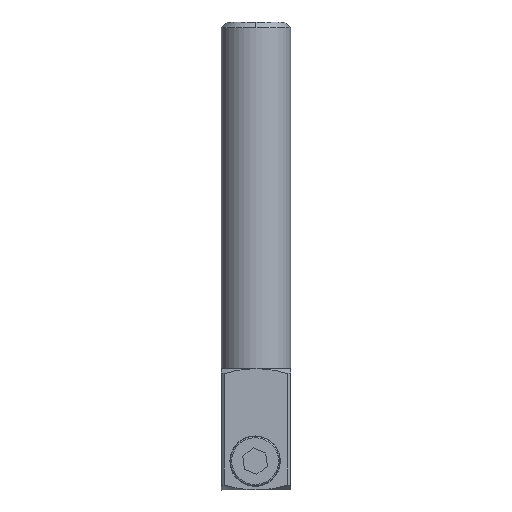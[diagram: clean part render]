
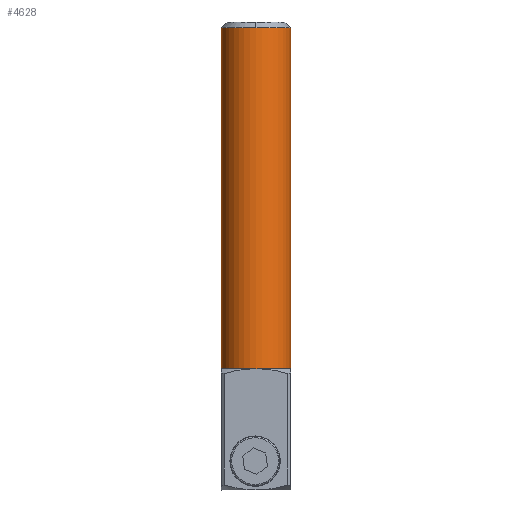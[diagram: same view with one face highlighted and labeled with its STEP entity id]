
A CAD part, left-side view. The second image highlights one B-rep face of the part: STEP entity #4628.
In plain terms, the highlighted cylindrical face has radius 6 mm (diameter 12 mm), a partial arc.
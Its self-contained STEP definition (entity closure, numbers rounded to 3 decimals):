
#722 = VERTEX_POINT ( 'NONE', #8622 ) ;
#736 = EDGE_LOOP ( 'NONE', ( #9617, #2493, #2335, #2048, #3266 ) ) ;
#1015 = CIRCLE ( 'NONE', #2639, 6. ) ;
#1640 = CARTESIAN_POINT ( 'NONE',  ( 2.514, 32.342, 33.168 ) ) ;
#1738 = EDGE_CURVE ( 'NONE', #722, #11349, #2868, .T. ) ;
#1903 = DIRECTION ( 'NONE',  ( 0., 1., 0. ) ) ;
#2048 = ORIENTED_EDGE ( 'NONE', *, *, #1738, .T. ) ;
#2335 = ORIENTED_EDGE ( 'NONE', *, *, #10790, .F. ) ;
#2462 = DIRECTION ( 'NONE',  ( -1., 0., 0. ) ) ;
#2493 = ORIENTED_EDGE ( 'NONE', *, *, #5535, .F. ) ;
#2639 = AXIS2_PLACEMENT_3D ( 'NONE', #1640, #3566, #7346 ) ;
#2779 = VECTOR ( 'NONE', #9768, 1000. ) ;
#2868 = LINE ( 'NONE', #5992, #2779 ) ;
#3266 = ORIENTED_EDGE ( 'NONE', *, *, #3462, .T. ) ;
#3462 = EDGE_CURVE ( 'NONE', #11349, #3606, #4654, .T. ) ;
#3566 = DIRECTION ( 'NONE',  ( 0., 0., 1. ) ) ;
#3606 = VERTEX_POINT ( 'NONE', #10572 ) ;
#3671 = AXIS2_PLACEMENT_3D ( 'NONE', #6177, #8035, #11650 ) ;
#4628 = ADVANCED_FACE ( 'NONE', ( #6623 ), #8206, .T. ) ;
#4654 = CIRCLE ( 'NONE', #3671, 6. ) ;
#4754 = VERTEX_POINT ( 'NONE', #8845 ) ;
#5236 = DIRECTION ( 'NONE',  ( 0., 0., 1. ) ) ;
#5438 = CARTESIAN_POINT ( 'NONE',  ( 2.514, 26.342, 33.168 ) ) ;
#5535 = EDGE_CURVE ( 'NONE', #4754, #7084, #1015, .T. ) ;
#5992 = CARTESIAN_POINT ( 'NONE',  ( 2.514, 38.342, 33.168 ) ) ;
#6010 = EDGE_CURVE ( 'NONE', #7084, #3606, #10948, .T. ) ;
#6177 = CARTESIAN_POINT ( 'NONE',  ( 2.514, 32.342, -25.832 ) ) ;
#6623 = FACE_OUTER_BOUND ( 'NONE', #736, .T. ) ;
#6857 = CARTESIAN_POINT ( 'NONE',  ( 2.514, 32.342, 33.168 ) ) ;
#7084 = VERTEX_POINT ( 'NONE', #11722 ) ;
#7346 = DIRECTION ( 'NONE',  ( -1., 0., 0. ) ) ;
#7714 = CIRCLE ( 'NONE', #10275, 6. ) ;
#7842 = VECTOR ( 'NONE', #9100, 1000. ) ;
#8035 = DIRECTION ( 'NONE',  ( 0., 0., 1. ) ) ;
#8206 = CYLINDRICAL_SURFACE ( 'NONE', #12004, 6. ) ;
#8622 = CARTESIAN_POINT ( 'NONE',  ( 2.514, 38.342, 33.168 ) ) ;
#8660 = DIRECTION ( 'NONE',  ( 0., 0., -1. ) ) ;
#8845 = CARTESIAN_POINT ( 'NONE',  ( -3.486, 32.342, 33.168 ) ) ;
#9100 = DIRECTION ( 'NONE',  ( 0., 0., -1. ) ) ;
#9617 = ORIENTED_EDGE ( 'NONE', *, *, #6010, .F. ) ;
#9768 = DIRECTION ( 'NONE',  ( 0., 0., -1. ) ) ;
#10275 = AXIS2_PLACEMENT_3D ( 'NONE', #10985, #5236, #2462 ) ;
#10572 = CARTESIAN_POINT ( 'NONE',  ( 2.514, 26.342, -25.832 ) ) ;
#10790 = EDGE_CURVE ( 'NONE', #722, #4754, #7714, .T. ) ;
#10948 = LINE ( 'NONE', #5438, #7842 ) ;
#10985 = CARTESIAN_POINT ( 'NONE',  ( 2.514, 32.342, 33.168 ) ) ;
#11141 = CARTESIAN_POINT ( 'NONE',  ( 2.514, 38.342, -25.832 ) ) ;
#11349 = VERTEX_POINT ( 'NONE', #11141 ) ;
#11650 = DIRECTION ( 'NONE',  ( 0., 1., 0. ) ) ;
#11722 = CARTESIAN_POINT ( 'NONE',  ( 2.514, 26.342, 33.168 ) ) ;
#12004 = AXIS2_PLACEMENT_3D ( 'NONE', #6857, #8660, #1903 ) ;
